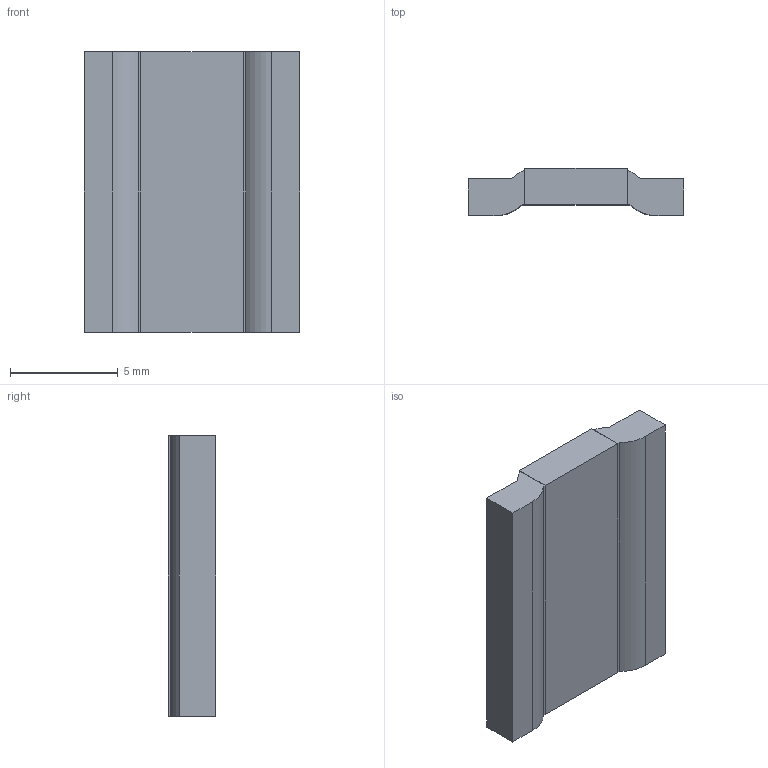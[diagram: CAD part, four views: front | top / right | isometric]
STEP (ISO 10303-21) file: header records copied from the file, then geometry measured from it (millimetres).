
FILE_DESCRIPTION (( 'STEP AP203' ), '1' );
FILE_NAME ('SEWF3951-0.3m¦¸.STEP', '2023-11-22T07:51:53', ( 'meks@163.com' ), ( '' ), 'SwSTEP 2.0', 'SolidWorks 2020', '' );
FILE_SCHEMA (( 'CONFIG_CONTROL_DESIGN' ));
Length unit declared in the file: millimetre
Products named in the file (1): SEWF3951-0.3m次
Bounding box: 10 x 2.2 x 13 mm (x, y, z)
Volume: 218.3 mm3; surface area: 430.2 mm2
Topology: 3 solids, 3 shells, 28 faces, 66 edges, 44 vertices
Faces by surface type: plane 24, cylinder 4
Entity records: 871 total; most frequent: CARTESIAN_POINT 139, DIRECTION 132, ORIENTED_EDGE 132, EDGE_CURVE 66, VECTOR 58, LINE 58, VERTEX_POINT 44, AXIS2_PLACEMENT_3D 37
